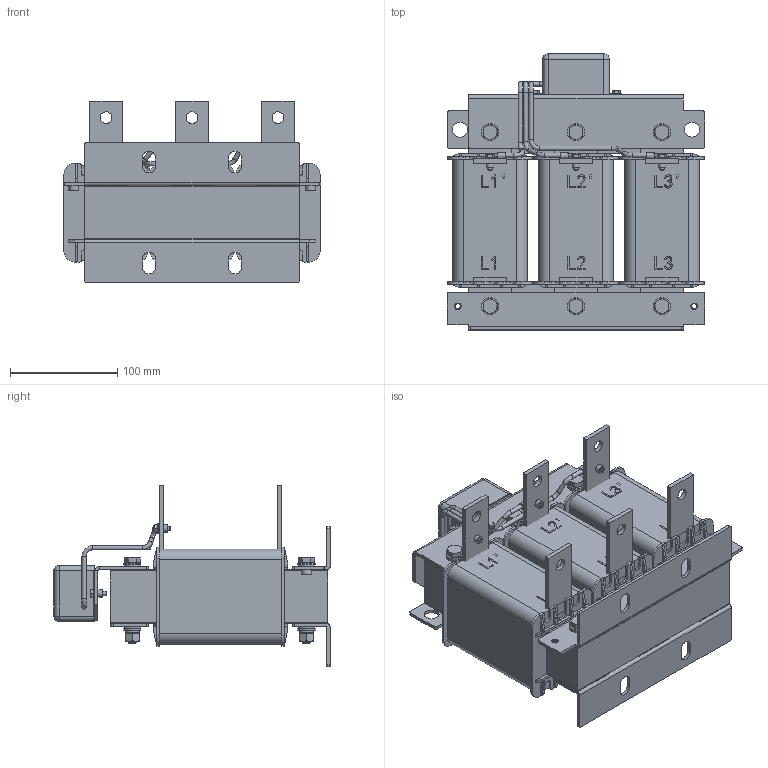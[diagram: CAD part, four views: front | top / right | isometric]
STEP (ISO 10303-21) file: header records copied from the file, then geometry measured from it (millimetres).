
FILE_DESCRIPTION(('STEP AP203'), '1');
FILE_NAME('IDUDT-45_120-4 _ dU_dt ôèëüòð 45 êÂò', '', ('UNSPECIFIED'), ('UNSPECIFIED'), 'C3D Converter', 'C3D Toolkit', '');
FILE_SCHEMA(('CONFIG_CONTROL_DESIGN'));
Length unit declared in the file: millimetre
Products named in the file (20): IDUDT-55/150-4
Assembly tree (59 placements, depth 3):
  IDUDT-55/150-4
    (unnamed)
    (unnamed)  x6
    (unnamed)
    (unnamed)
    (unnamed)
    (unnamed)  x12
    (unnamed)  x6
    (unnamed)  x6
      (unnamed)
      (unnamed)
      (unnamed)
    (unnamed)  x3
    (unnamed)
    (unnamed)
    (unnamed)  x5
    (unnamed)  x3
    (unnamed)  x3
    (unnamed)  x3
    (unnamed)
    (unnamed)
Bounding box: 240 x 257 x 168.5 mm (x, y, z)
Volume: 3334362.3 mm3; surface area: 686809 mm2
Topology: 125 solids, 125 shells, 1861 faces, 4512 edges, 2962 vertices
Faces by surface type: plane 1269, cylinder 426, cone 122, bspline 27, torus 13, sphere 4
Full cylindrical faces by diameter (mm): 3 x8, 4 x24, 4.3 x3, 4.407 x3, 5 x2, 6.02 x3, 6.917 x6, 7 x5, 8 x6, 8.68 x6, 9 x29, 11 x36, 11.63 x6, 12.88 x6, 14 x2, 16 x24
Entity records: 65422 total; most frequent: CARTESIAN_POINT 20510, ORIENTED_EDGE 6556, DIRECTION 6453, EDGE_CURVE 3278, LINE 2423, VECTOR 2423, VERTEX_POINT 2229, AXIS2_PLACEMENT_3D 2015
